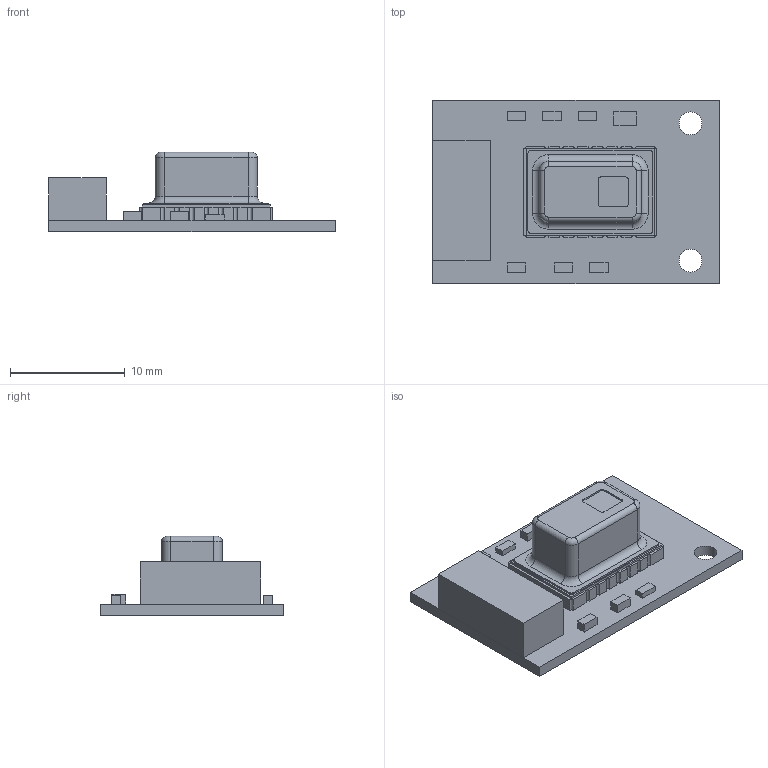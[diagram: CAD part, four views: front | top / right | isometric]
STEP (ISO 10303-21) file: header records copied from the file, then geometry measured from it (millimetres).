
FILE_DESCRIPTION (( 'STEP AP203' ), '1' );
FILE_NAME ('AMG8854M01_3Dmodel.STEP', '2020-09-14T08:42:02', ( '全社標準PC（ver1803）' ), ( 'パナソニック株式会社' ), 'SwSTEP 2.0', 'SolidWorks 2018', '' );
FILE_SCHEMA (( 'CONFIG_CONTROL_DESIGN' ));
Length unit declared in the file: millimetre
Products named in the file (9): cap; seramic_pkg; conector; printborad; resistance1&2; sensor; AMG8854M01_3Dmodel; capa1&2&4&5; capa3
Assembly tree (12 placements, depth 3):
  AMG8854M01_3Dmodel
    printborad
    conector
    resistance1&2  x2
    capa1&2&4&5  x4
    capa3
    sensor
      seramic_pkg
      cap
Bounding box: 25 x 16 x 6.93 mm (x, y, z)
Volume: 936.4 mm3; surface area: 1660.4 mm2
Topology: 11 solids, 11 shells, 158 faces, 372 edges, 238 vertices
Faces by surface type: plane 108, cylinder 42, torus 8
Entity records: 4993 total; most frequent: DIRECTION 730, CARTESIAN_POINT 680, ORIENTED_EDGE 648, EDGE_CURVE 324, AXIS2_PLACEMENT_3D 256, VECTOR 218, LINE 218, VERTEX_POINT 206
